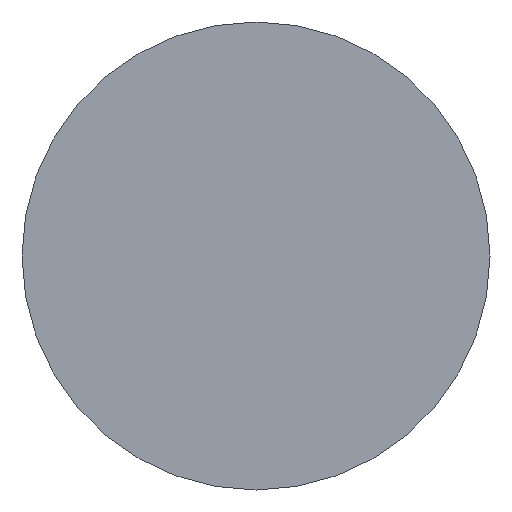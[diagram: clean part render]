
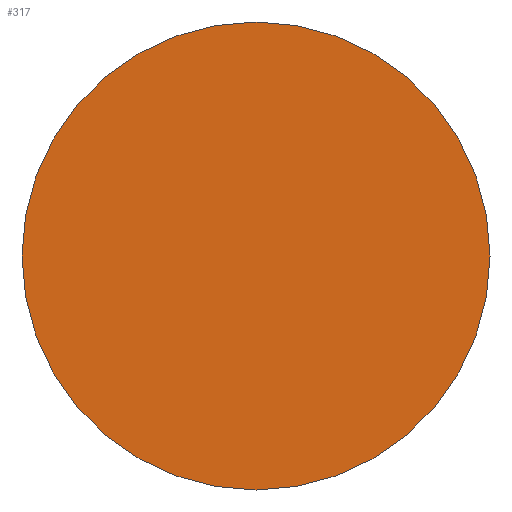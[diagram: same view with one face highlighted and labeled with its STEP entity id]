
A CAD part, left-side view. The second image highlights one B-rep face of the part: STEP entity #317.
In plain terms, the highlighted planar face has unit normal (-1, 0, 0).
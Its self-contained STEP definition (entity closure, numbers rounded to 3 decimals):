
#16=PLANE('',#361);
#24=FACE_OUTER_BOUND('',#40,.T.);
#40=EDGE_LOOP('',(#218,#219));
#81=CIRCLE('',#362,10.035);
#82=CIRCLE('',#363,10.035);
#121=VERTEX_POINT('',#554);
#122=VERTEX_POINT('',#555);
#160=EDGE_CURVE('',#121,#122,#81,.T.);
#161=EDGE_CURVE('',#122,#121,#82,.T.);
#218=ORIENTED_EDGE('',*,*,#160,.F.);
#219=ORIENTED_EDGE('',*,*,#161,.F.);
#317=ADVANCED_FACE('',(#24),#16,.T.);
#361=AXIS2_PLACEMENT_3D('',#553,#432,#433);
#362=AXIS2_PLACEMENT_3D('',#556,#434,#435);
#363=AXIS2_PLACEMENT_3D('',#557,#436,#437);
#432=DIRECTION('center_axis',(-1.,0.,0.));
#433=DIRECTION('ref_axis',(0.,0.,1.));
#434=DIRECTION('center_axis',(1.,0.,0.));
#435=DIRECTION('ref_axis',(0.,0.,-1.));
#436=DIRECTION('center_axis',(1.,0.,0.));
#437=DIRECTION('ref_axis',(0.,0.,-1.));
#553=CARTESIAN_POINT('Origin',(0.,10.035,0.));
#554=CARTESIAN_POINT('',(0.,10.035,0.));
#555=CARTESIAN_POINT('',(0.,-10.035,0.));
#556=CARTESIAN_POINT('Origin',(0.,0.,0.));
#557=CARTESIAN_POINT('Origin',(0.,0.,0.));
